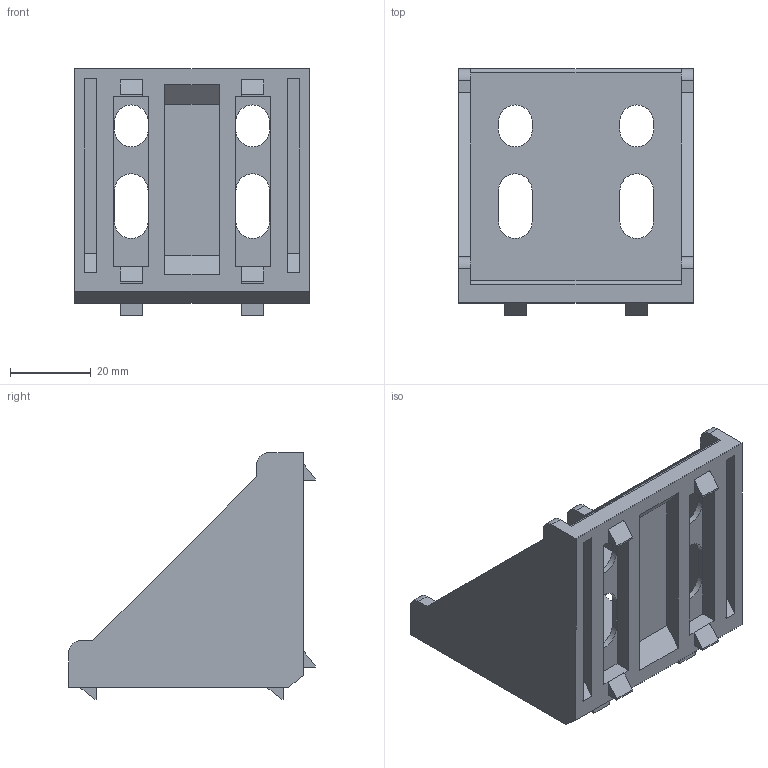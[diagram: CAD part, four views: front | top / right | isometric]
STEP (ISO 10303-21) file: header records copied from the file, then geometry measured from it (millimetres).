
FILE_DESCRIPTION (( 'STEP AP203' ), '1' );
FILE_NAME ('LIMA-GE60X60.STEP', '2018-03-15T12:46:18', ( '' ), ( '' ), 'SwSTEP 2.0', 'SolidWorks 2013', '' );
FILE_SCHEMA (( 'CONFIG_CONTROL_DESIGN' ));
Length unit declared in the file: millimetre
Products named in the file (1): LIMA-GE60X60
Bounding box: 58 x 61 x 61 mm (x, y, z)
Volume: 30077.1 mm3; surface area: 23012.4 mm2
Topology: 1 solids, 1 shells, 145 faces, 391 edges, 258 vertices
Faces by surface type: plane 119, cylinder 26
Entity records: 4602 total; most frequent: CARTESIAN_POINT 795, ORIENTED_EDGE 782, DIRECTION 735, EDGE_CURVE 391, VECTOR 339, LINE 339, VERTEX_POINT 258, AXIS2_PLACEMENT_3D 198
